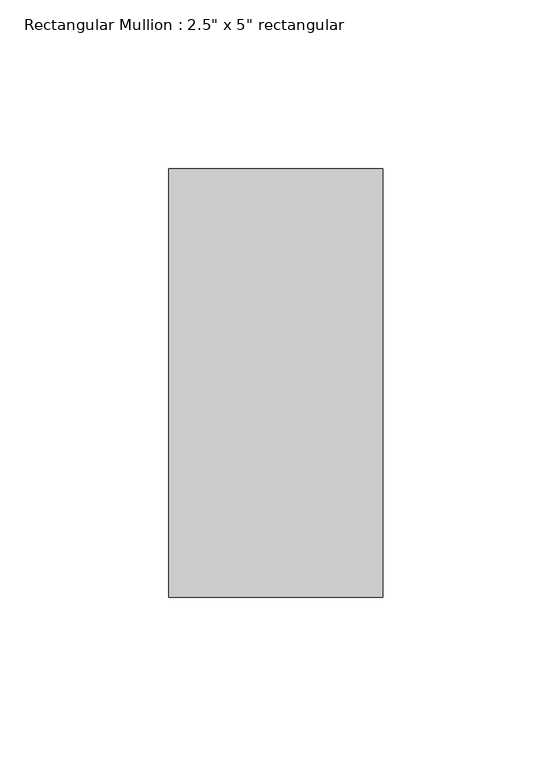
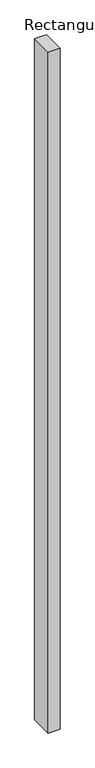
"""IFC4 building model written with IfcOpenShell, lengths in millimetres: member geometry."""

from ifc_helpers import new_model, si_unit, frame, origin, place, context, project, spatial, polyline, outline, extrude, source, transform, mapped, element, save


def member_0456bca8(model_context):
    return source(origin(), model_context, "Body", "SweptSolid", [
        extrude(outline(polyline([(0.0, 63.5), (0.0, -63.5), (-63.5, -63.5), (-63.5, 63.5), (0.0, 63.5)])), frame((0.0, 0.0, -3895.5187766), z_axis=(0.0, 0.0, 1.0), x_axis=(1.0, 0.0, 0.0)), (0.0, 0.0, 1.0), 3895.5187766),
    ])


if __name__ == "__main__":
    model = new_model("IFC4")
    model_context = context("Model", 3, world=origin())
    ifc_project = project(units=[si_unit("LENGTHUNIT", "METRE", prefix="MILLI")], contexts=[model_context])
    site = spatial("IfcSite", under=ifc_project)
    building = spatial("IfcBuilding", under=site)
    placement = place(None, origin())
    member_shape = member_0456bca8(model_context)
    element("IfcMember", 1, ObjectType="Rectangular Mullion : 2.5\" x 5\" rectangular", at=placement, inside=building, context=model_context, shape_type="MappedRepresentation", body=[
        mapped(member_shape, transform((0.0, 0.0, 0.0), x_axis=(1.0, 0.0, 0.0), y_axis=(0.0, 1.0, 0.0), z_axis=(0.0, 0.0, 1.0))),
    ])
    save(model, "model.ifc")
